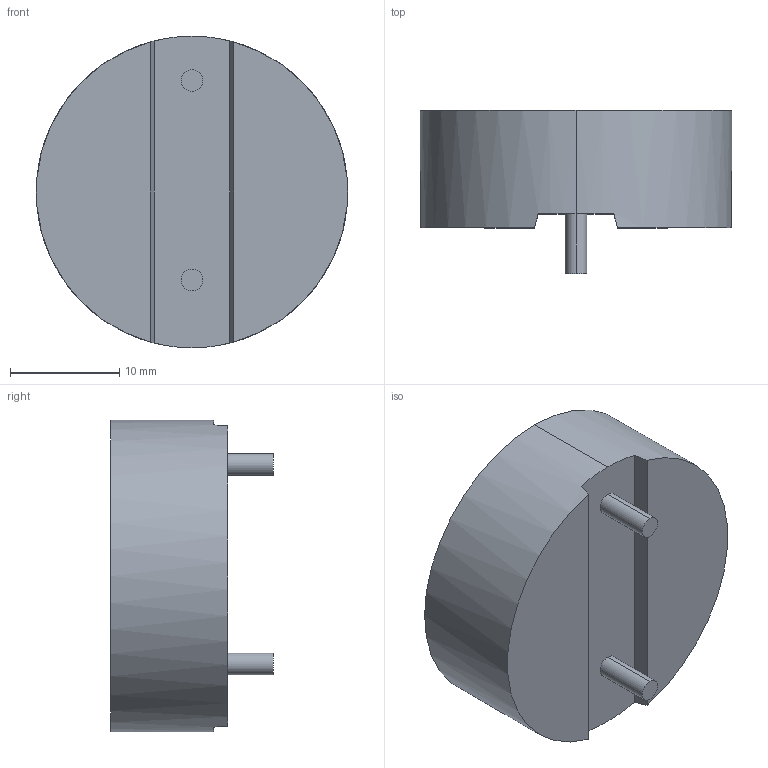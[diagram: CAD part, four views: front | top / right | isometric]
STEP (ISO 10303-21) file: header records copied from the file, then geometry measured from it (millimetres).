
FILE_DESCRIPTION (( 'STEP AP214' ), '1' );
FILE_NAME ('IHTH-1125KZ-5A 6.8uH.STEP', '2025-03-14T18:48:10', ( '' ), ( '' ), 'SwSTEP 2.0', 'SolidWorks 2024', '' );
FILE_SCHEMA (( 'AUTOMOTIVE_DESIGN' ));
Length unit declared in the file: inch
Products named in the file (1): IHTH-1125KZ-5A 6.8uH
Bounding box: 28.57 x 14.94 x 28.57 mm (x, y, z)
Volume: 6663.2 mm3; surface area: 2354.7 mm2
Topology: 1 solids, 1 shells, 203 faces, 525 edges, 350 vertices
Faces by surface type: plane 126, bspline 67, cylinder 10
Entity records: 10012 total; most frequent: CARTESIAN_POINT 5462, ORIENTED_EDGE 1050, DIRECTION 685, EDGE_CURVE 525, LINE 363, VECTOR 363, VERTEX_POINT 350, EDGE_LOOP 229
